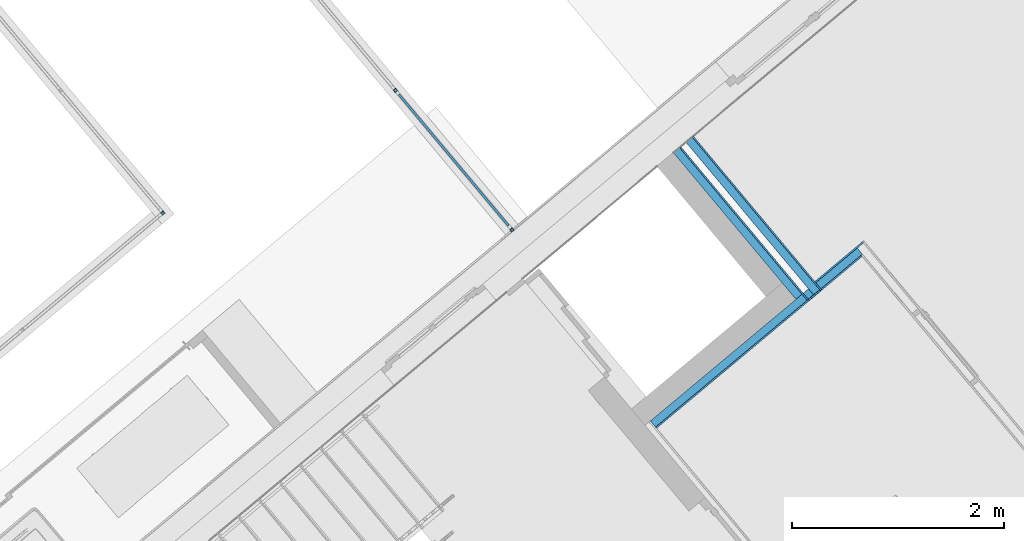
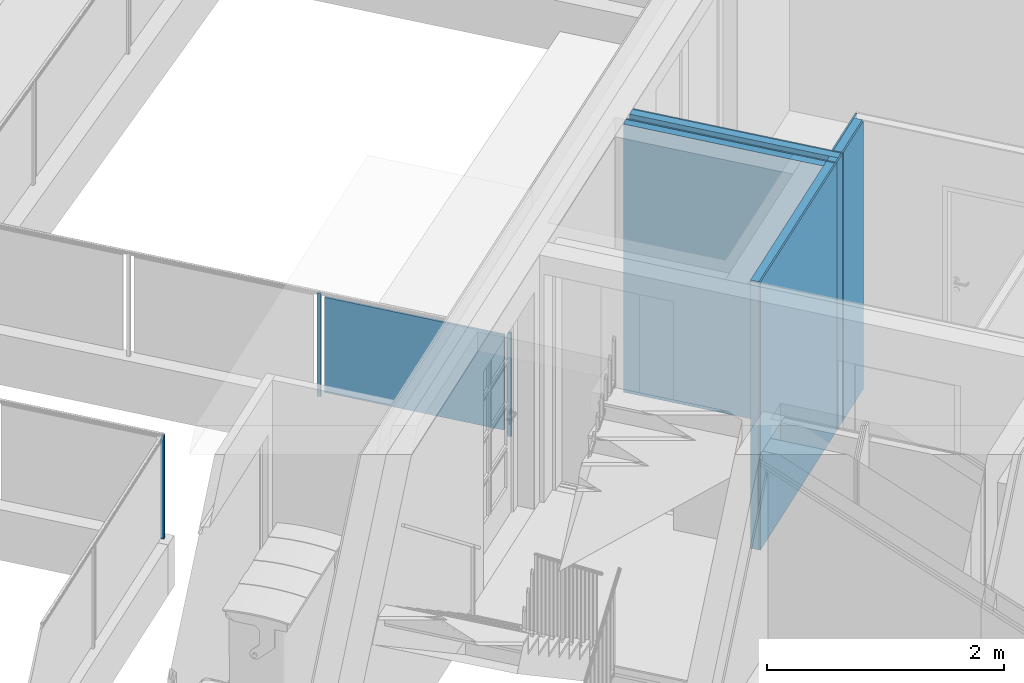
# One storey, part 40 of 75: 15 building element parts, 7 elements without a shape of their own.
"""IFC4 building model written with IfcOpenShell, lengths in metres."""

import ifcopenshell
import ifcopenshell.guid

model = None  # the IFC model being written
_history = None  # IfcOwnerHistory: only IFC2X3 demands one
_inside = {}  # id of a spatial element -> (the spatial element, [elements in it])
_under = {}  # id of a project, library or spatial element -> (it, [spatial elements below it])
_declared = {}  # id of a project -> (the project, [libraries it declares])
_typed = {}  # id of a type object -> (the type object, [elements of that type])
_made_of = {}  # id of a material, layer set ... -> (it, [elements and type objects made of it])


def new_model(schema):
    """Start an empty IFC model of exactly this schema.

    Asked for "IFC4X3", IfcOpenShell would pick the latest addendum, in which some entities
    have other attributes; the version numbers below select the first issue.
    IFC2X3 requires an IfcOwnerHistory on every rooted entity: one is made here for all.
    """
    global model, _history
    if schema == "IFC4X3":
        model = ifcopenshell.file(schema_version=(4, 3, 0, 0))
    else:
        model = ifcopenshell.file(schema=schema)
    _inside.clear()
    _under.clear()
    _declared.clear()
    _typed.clear()
    _made_of.clear()
    _history = None
    if model.schema == "IFC2X3":
        org = make("IfcOrganization", Name="unknown")
        user = make(
            "IfcPersonAndOrganization",
            ThePerson=make("IfcPerson", FamilyName="unknown"),
            TheOrganization=org,
        )
        app = make(
            "IfcApplication",
            ApplicationDeveloper=org,
            Version="unknown",
            ApplicationFullName="unknown",
            ApplicationIdentifier="unknown",
        )
        _history = make(
            "IfcOwnerHistory",
            OwningUser=user,
            OwningApplication=app,
            ChangeAction="ADDED",
            CreationDate=0,
        )
    return model


def make(cls, **values):
    """One entity of the class cls with the attributes given. An attribute that is None is left unset."""
    return model.create_entity(
        cls, **{name: value for name, value in values.items() if value is not None}
    )


def entity(cls, *values):
    """Any entity or typed value of the class cls, its attributes in the order of the schema. None: left unset."""
    e = model.create_entity(cls)
    for i, value in enumerate(values):
        if value is not None:
            e[i] = value
    return e


def rooted(cls, **values):
    """An entity with a GlobalId (a new one), such as an element, a storey or a relation."""
    return make(cls, GlobalId=ifcopenshell.guid.new(), OwnerHistory=_history, **values)


def si_unit(unit_type, name, prefix=None):
    """IfcSIUnit, for example si_unit("LENGTHUNIT", "METRE", prefix="MILLI")."""
    return make("IfcSIUnit", UnitType=unit_type, Prefix=prefix, Name=name)


def converted_unit(unit_type, name, factor, base, dimensions=None, offset=None):
    """IfcConversionBasedUnit, such as the inch: factor (a typed value) times the base unit."""
    return make(
        "IfcConversionBasedUnit"
        if offset is None
        else "IfcConversionBasedUnitWithOffset",
        ConversionOffset=offset,
        Dimensions=None
        if dimensions is None
        else entity("IfcDimensionalExponents", *dimensions),
        UnitType=unit_type,
        Name=name,
        ConversionFactor=make(
            "IfcMeasureWithUnit", ValueComponent=factor, UnitComponent=base
        ),
    )


def derived_unit(unit_type, elements):
    """IfcDerivedUnit: a product of units, each with its exponent."""
    return make(
        "IfcDerivedUnit",
        Elements=[
            make("IfcDerivedUnitElement", Unit=unit, Exponent=power)
            for unit, power in elements
        ],
        UnitType=unit_type,
    )


def assignment(units):
    """IfcUnitAssignment: the units of a project."""
    return None if units is None else make("IfcUnitAssignment", Units=units)


def point(xyz):
    """IfcCartesianPoint."""
    return None if xyz is None else make("IfcCartesianPoint", Coordinates=xyz)


def direction(xyz):
    """IfcDirection."""
    return None if xyz is None else make("IfcDirection", DirectionRatios=xyz)


def frame(location, z_axis=None, x_axis=None):
    """IfcAxis2Placement3D, a coordinate frame: its origin and axes. An axis left out is left unset."""
    return make(
        "IfcAxis2Placement3D",
        Location=point(location),
        Axis=direction(z_axis),
        RefDirection=direction(x_axis),
    )


def origin_with_axes():
    """The frame at (0, 0, 0) with the z axis (0, 0, 1) and the x axis (1, 0, 0) written out."""
    return frame((0.0, 0.0, 0.0), z_axis=(0.0, 0.0, 1.0), x_axis=(1.0, 0.0, 0.0))


def place(relative_to, where):
    """IfcLocalPlacement: puts the frame where relative to a parent placement (None: the world)."""
    return make(
        "IfcLocalPlacement", PlacementRelTo=relative_to, RelativePlacement=where
    )


def context(
    kind, dimensions, precision=None, world=None, true_north=None, identifier=None
):
    """IfcGeometricRepresentationContext, for example the 3D "Model" context."""
    return make(
        "IfcGeometricRepresentationContext",
        ContextIdentifier=identifier,
        ContextType=kind,
        CoordinateSpaceDimension=dimensions,
        Precision=precision,
        WorldCoordinateSystem=world,
        TrueNorth=true_north,
    )


def subcontext(parent, identifier, kind, view, scale=None):
    """IfcGeometricRepresentationSubContext, for example "Body" below "Model"."""
    return make(
        "IfcGeometricRepresentationSubContext",
        ContextIdentifier=identifier,
        ContextType=kind,
        ParentContext=parent,
        TargetScale=scale,
        TargetView=view,
    )


def project(units=None, contexts=None):
    """IfcProject with its units and contexts."""
    return rooted(
        "IfcProject",
        Name="project",
        RepresentationContexts=contexts,
        UnitsInContext=assignment(units),
    )


def spatial(cls, under=None, at=None, **own):
    """A site, building, storey or space (cls), placed at a placement, below another one or the project."""
    s = rooted(cls, ObjectPlacement=at, **own)
    if under is not None:
        _under.setdefault(under.id(), (under, []))[1].append(s)
    return s


def point_list(points):
    """IfcCartesianPointList2D or 3D."""
    cls = (
        "IfcCartesianPointList2D" if len(points[0]) == 2 else "IfcCartesianPointList3D"
    )
    return make(cls, CoordList=points)


def polygons(points, faces, closed=None, point_numbers=None):
    """IfcPolygonalFaceSet: a face is its outer loop, then its inner loops; points numbered from 1."""
    made = []
    for loops in faces:
        if len(loops) == 1:
            made.append(make("IfcIndexedPolygonalFace", CoordIndex=loops[0]))
        else:
            made.append(
                make(
                    "IfcIndexedPolygonalFaceWithVoids",
                    CoordIndex=loops[0],
                    InnerCoordIndices=loops[1:],
                )
            )
    return make(
        "IfcPolygonalFaceSet",
        Coordinates=point_list(points),
        Closed=closed,
        Faces=made,
        PnIndex=point_numbers,
    )


def shape(context_of_items, identifier, shape_type, items):
    """IfcShapeRepresentation: the items that make up one representation, for example the "Body"."""
    return make(
        "IfcShapeRepresentation",
        ContextOfItems=context_of_items,
        RepresentationIdentifier=identifier,
        RepresentationType=shape_type,
        Items=items,
    )


def material(Name=None, Category=None):
    """IfcMaterial."""
    return make("IfcMaterial", Name=Name, Category=Category)


def made_of(thing, what):
    """Note that an element or type object is made of a material, layer set ...; save() writes the relation."""
    if what is not None:
        _made_of.setdefault(what.id(), (what, []))[1].append(thing)
    return thing


def type_object(cls, material=None, **own):
    """A type object (cls), such as IfcWallType, which elements share."""
    return made_of(rooted(cls, **own), material)


def element(
    cls,
    number,
    at=None,
    inside=None,
    cuts=None,
    type_object=None,
    material=None,
    context=None,
    identifier="Body",
    shape_type=None,
    held_by="IfcProductDefinitionShape",
    body=None,
    shapes=None,
    **own,
):
    """One element of the class cls, such as IfcWall. Its Tag is "e" and its number.

    at: its placement. inside: the storey or other place that contains it. cuts: it is an
    opening in that element (IfcRelVoidsElement). A single representation is given by context,
    identifier, shape_type and body (its items); several are given by shapes. held_by: the class
    of the entity that holds the representations. save() writes the other relations.
    """
    e = rooted(cls, Tag="e%d" % number, ObjectPlacement=at, **own)
    if body is not None:
        shapes = [shape(context, identifier, shape_type, body)]
    if shapes is not None:
        e.Representation = make(held_by, Representations=shapes)
    if inside is not None:
        _inside.setdefault(inside.id(), (inside, []))[1].append(e)
    if cuts is not None:
        rooted(
            "IfcRelVoidsElement", RelatingBuildingElement=cuts, RelatedOpeningElement=e
        )
    if type_object is not None:
        _typed.setdefault(type_object.id(), (type_object, []))[1].append(e)
    return made_of(e, material)


def aggregate(whole, parts):
    """IfcRelAggregates: a whole, such as a stair, and the parts it consists of."""
    return rooted("IfcRelAggregates", RelatingObject=whole, RelatedObjects=parts)


def save(model, path):
    """Write the relations noted so far, then the file.

    IfcRelAggregates (storeys below a building ...), IfcRelContainedInSpatialStructure (elements
    in a storey), IfcRelDefinesByType, IfcRelAssociatesMaterial and IfcRelDeclares: one each for
    every whole, place, type object, material and project.
    """
    for whole, parts in _under.values():
        aggregate(whole, parts)
    for where, things in _inside.values():
        rooted(
            "IfcRelContainedInSpatialStructure",
            RelatedElements=things,
            RelatingStructure=where,
        )
    for kind, things in _typed.values():
        rooted("IfcRelDefinesByType", RelatedObjects=things, RelatingType=kind)
    for what, things in _made_of.values():
        rooted("IfcRelAssociatesMaterial", RelatedObjects=things, RelatingMaterial=what)
    for by, libraries in _declared.values():
        rooted("IfcRelDeclares", RelatingContext=by, RelatedDefinitions=libraries)
    model.write(path)


model = new_model("IFC4")

# Units and contexts
model_context = context("Model", 3, precision=1e-05, world=origin_with_axes(), true_north=direction((0.0, 1.0)))
body_context = subcontext(model_context, "Body", "Model", "MODEL_VIEW")
ifc_project = project(units=[si_unit("LENGTHUNIT", "METRE"), si_unit("AREAUNIT", "SQUARE_METRE"), si_unit("VOLUMEUNIT", "CUBIC_METRE"), converted_unit("PLANEANGLEUNIT", "DEGREE", entity("IfcPlaneAngleMeasure", 0.0174532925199), si_unit("PLANEANGLEUNIT", "RADIAN"), dimensions=[0, 0, 0, 0, 0, 0, 0]), converted_unit("TIMEUNIT", "Year", entity("IfcTimeMeasure", 31556926.0), si_unit("TIMEUNIT", "SECOND"), dimensions=[0, 0, 1, 0, 0, 0, 0]), si_unit("MASSUNIT", "GRAM", prefix="KILO"), si_unit("THERMODYNAMICTEMPERATUREUNIT", "DEGREE_CELSIUS"), si_unit("LUMINOUSINTENSITYUNIT", "LUMEN"), si_unit("ENERGYUNIT", "JOULE", prefix="MEGA"), derived_unit("THERMALCONDUCTANCEUNIT", [(si_unit("POWERUNIT", "WATT"), 1), (si_unit("LENGTHUNIT", "METRE"), -1), (si_unit("THERMODYNAMICTEMPERATUREUNIT", "KELVIN"), -1)]), derived_unit("SPECIFICHEATCAPACITYUNIT", [(si_unit("ENERGYUNIT", "JOULE"), 1), (si_unit("MASSUNIT", "GRAM", prefix="KILO"), -1), (si_unit("THERMODYNAMICTEMPERATUREUNIT", "KELVIN"), -1)]), derived_unit("MASSDENSITYUNIT", [(si_unit("MASSUNIT", "GRAM", prefix="KILO"), 1), (si_unit("VOLUMEUNIT", "CUBIC_METRE"), -1)])], contexts=[model_context])

# Site, building, storey
site_placement = place(None, frame((-0.00153261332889, -0.00661245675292, 0.0), z_axis=(0.0, 0.0, 1.0), x_axis=(1.0, 0.0, 0.0)))
site = spatial("IfcSite", under=ifc_project, at=site_placement, Name="Gelände", CompositionType="ELEMENT")
building_placement = place(site_placement, origin_with_axes())
building = spatial("IfcBuilding", under=site, at=building_placement, Name="Gebäude", CompositionType="ELEMENT")
storey_placement = place(building_placement, frame((0.0, 0.0, -0.22), z_axis=(0.0, 0.0, 1.0), x_axis=(1.0, 0.0, 0.0)))
storey = spatial("IfcBuildingStorey", under=building, at=storey_placement, Name="EG", CompositionType="ELEMENT", Elevation=-0.22)

# Wall, building element parts
wall_type_1 = type_object("IfcWallType", Name="LB 9,0 cm einfache Vorsatzschale  90", PredefinedType="NOTDEFINED")
wall_1_placement = place(storey_placement, frame((2.91105147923, 25.8183705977, 0.0), z_axis=(0.0, 0.0, 1.0), x_axis=(-0.641215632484, 0.767360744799, 0.0)))
wall_1 = element("IfcWall", 1, at=wall_1_placement, inside=storey, type_object=wall_type_1, Name="Wand-006", PredefinedType="NOTDEFINED")
ifc_material_1 = material(Name="Mineralwolle weich")
building_element_part_1_placement = place(wall_1_placement, origin_with_axes())
building_element_part_1 = element("IfcBuildingElementPart", 2, at=building_element_part_1_placement, material=ifc_material_1, Name="Mineralwolle weich", PredefinedType="NOTDEFINED", context=body_context, shape_type="Tessellation", body=[
    polygons([(1.79614364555, -0.075, 2.76), (6.98080551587e-07, -0.075, 2.76), (6.98080551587e-07, -0.075, 0.0), (1.79614364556, -0.075, 0.0), (0.0, 0.0, 2.76), (1.79614424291, 0.0, 2.76), (0.0, 0.0, 0.0), (1.79614424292, 0.0, 0.0)], [[[1, 2, 3, 4]], [[5, 2, 1, 6]], [[2, 5, 7, 3]], [[7, 8, 4, 3]], [[6, 1, 4, 8]], [[5, 6, 8, 7]]], closed=True),
])
ifc_material_2 = material(Name="Gipskarton")
building_element_part_2_placement = place(wall_1_placement, origin_with_axes())
building_element_part_2 = element("IfcBuildingElementPart", 3, at=building_element_part_2_placement, material=ifc_material_2, Name="Gipskarton", PredefinedType="NOTDEFINED", context=body_context, shape_type="Tessellation", body=[
    polygons([(1.79614352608, -0.09, 2.76), (-0.0749991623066, -0.09, 2.76), (-0.0749991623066, -0.09, 0.0), (1.79614352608, -0.09, 0.0), (-0.0749993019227, -0.075, 2.76), (1.79614364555, -0.075, 2.76), (-0.0749993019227, -0.075, 0.0), (1.79614364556, -0.075, 0.0)], [[[1, 2, 3, 4]], [[5, 2, 1, 6]], [[2, 5, 7, 3]], [[7, 8, 4, 3]], [[6, 1, 4, 8]], [[5, 6, 8, 7]]], closed=True),
])
aggregate(wall_1, [building_element_part_1, building_element_part_2])

wall_2_placement = place(storey_placement, frame((1.49097783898, 24.6317179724, 0.0), z_axis=(0.0, 0.0, 1.0), x_axis=(0.767354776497, 0.641222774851, 0.0)))
wall_2 = element("IfcWall", 4, at=wall_2_placement, inside=storey, type_object=wall_type_1, Name="Wand-006", PredefinedType="NOTDEFINED")
building_element_part_3_placement = place(wall_2_placement, origin_with_axes())
building_element_part_3 = element("IfcBuildingElementPart", 5, at=building_element_part_3_placement, material=ifc_material_1, Name="Mineralwolle weich", PredefinedType="NOTDEFINED", context=body_context, shape_type="Tessellation", body=[
    polygons([(1.92560898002, 0.0, 2.76), (1.92560828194, -0.075, 2.76), (1.92560828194, -0.075, 0.0), (1.92560898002, 0.0, 0.0), (0.0649631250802, -0.075, 2.76), (0.0650000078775, 0.0, 2.76), (0.064963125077, -0.075, 0.0), (0.065000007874, 0.0, 0.0)], [[[1, 2, 3, 4]], [[5, 2, 1, 6]], [[2, 5, 7, 3]], [[8, 4, 3, 7]], [[6, 1, 4, 8]], [[5, 6, 8, 7]]], closed=True),
])
building_element_part_4_placement = place(wall_2_placement, origin_with_axes())
building_element_part_4 = element("IfcBuildingElementPart", 6, at=building_element_part_4_placement, material=ifc_material_2, Name="Gipskarton", PredefinedType="NOTDEFINED", context=body_context, shape_type="Tessellation", body=[
    polygons([(1.94060828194, -0.075, 2.76), (1.94060814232, -0.09, 2.76), (1.94060814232, -0.09, 0.0), (1.94060828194, -0.075, 0.0), (0.0649557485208, -0.09, 2.76), (0.0649631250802, -0.075, 2.76), (0.0649557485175, -0.09, 0.0), (0.064963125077, -0.075, 0.0)], [[[1, 2, 3, 4]], [[5, 2, 1, 6]], [[2, 5, 7, 3]], [[3, 7, 8, 4]], [[6, 1, 4, 8]], [[5, 6, 8, 7]]], closed=True),
])
aggregate(wall_2, [building_element_part_3, building_element_part_4])

wall_3_placement = place(storey_placement, frame((2.98011276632, 25.8760801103, 0.0), z_axis=(0.0, 0.0, 1.0), x_axis=(0.767354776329, 0.641222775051, 0.0)))
wall_3 = element("IfcWall", 7, at=wall_3_placement, inside=storey, type_object=wall_type_1, Name="Wand-006", PredefinedType="NOTDEFINED")
building_element_part_5_placement = place(wall_3_placement, origin_with_axes())
building_element_part_5 = element("IfcBuildingElementPart", 8, at=building_element_part_5_placement, material=ifc_material_1, Name="Mineralwolle weich", PredefinedType="NOTDEFINED", context=body_context, shape_type="Tessellation", body=[
    polygons([(0.0647565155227, 0.0, 2.76), (0.0647552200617, -0.075, 2.76), (0.0647552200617, -0.075, 0.0), (0.0647565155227, 0.0, 0.0), (0.0, -0.075, 2.76), (0.0, 0.0, 2.76), (0.0, -0.075, 0.0), (0.0, 0.0, 0.0)], [[[1, 2, 3, 4]], [[5, 2, 1, 6]], [[2, 5, 7, 3]], [[4, 3, 7, 8]], [[6, 1, 4, 8]], [[5, 6, 8, 7]]], closed=True),
])
building_element_part_6_placement = place(wall_3_placement, origin_with_axes())
building_element_part_6 = element("IfcBuildingElementPart", 9, at=building_element_part_6_placement, material=ifc_material_2, Name="Gipskarton", PredefinedType="NOTDEFINED", context=body_context, shape_type="Tessellation", body=[
    polygons([(0.139755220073, -0.075, 2.76), (0.139754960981, -0.09, 2.76), (0.139754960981, -0.09, 0.0), (0.139755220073, -0.075, 0.0), (0.0, -0.09, 2.76), (0.0, -0.075, 2.76), (0.0, -0.09, 0.0), (0.0, -0.075, 0.0)], [[[1, 2, 3, 4]], [[5, 2, 1, 6]], [[2, 5, 7, 3]], [[4, 3, 7, 8]], [[6, 1, 4, 8]], [[5, 6, 8, 7]]], closed=True),
])
aggregate(wall_3, [building_element_part_5, building_element_part_6])

wall_4_placement = place(storey_placement, frame((3.08751284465, 25.8485405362, 0.0), z_axis=(0.0, 0.0, 1.0), x_axis=(-0.64120952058, 0.767365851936, 0.0)))
wall_4 = element("IfcWall", 10, at=wall_4_placement, inside=storey, type_object=wall_type_1, Name="Wand-006", PredefinedType="NOTDEFINED")
building_element_part_7_placement = place(wall_4_placement, origin_with_axes())
building_element_part_7 = element("IfcBuildingElementPart", 11, at=building_element_part_7_placement, material=ifc_material_1, Name="Mineralwolle weich", PredefinedType="NOTDEFINED", context=body_context, shape_type="Tessellation", body=[
    polygons([(1.8861415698, -0.075, 2.76), (0.0150012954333, -0.075, 2.76), (0.0150012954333, -0.075, 0.0), (1.88614156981, -0.075, 0.0), (0.0149999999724, 0.0, 2.76), (1.8861415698, 0.0, 2.76), (0.0149999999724, 0.0, 0.0), (1.88614156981, 0.0, 0.0)], [[[1, 2, 3, 4]], [[5, 2, 1, 6]], [[2, 5, 7, 3]], [[7, 8, 4, 3]], [[6, 1, 4, 8]], [[5, 6, 8, 7]]], closed=True),
])
building_element_part_8_placement = place(wall_4_placement, origin_with_axes())
building_element_part_8 = element("IfcBuildingElementPart", 12, at=building_element_part_8_placement, material=ifc_material_2, Name="Gipskarton", PredefinedType="NOTDEFINED", context=body_context, shape_type="Tessellation", body=[
    polygons([(1.8861415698, -0.09, 2.76), (0.0, -0.09, 2.76), (0.0, -0.09, 0.0), (1.88614156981, -0.09, 0.0), (0.0, -0.075, 2.76), (1.8861415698, -0.075, 2.76), (0.0, -0.075, 0.0), (1.88614156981, -0.075, 0.0)], [[[1, 2, 3, 4]], [[5, 2, 1, 6]], [[2, 5, 7, 3]], [[7, 8, 4, 3]], [[6, 1, 4, 8]], [[5, 6, 8, 7]]], closed=True),
])
aggregate(wall_4, [building_element_part_7, building_element_part_8])

wall_type_2 = type_object("IfcWallType", Name="IW LB 01 Leichtbautrennwand einfach 10,5 cm 105", PredefinedType="NOTDEFINED")
wall_5_placement = place(storey_placement, frame((3.02017821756, 25.9291230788, 0.0), z_axis=(0.0, 0.0, 1.0), x_axis=(0.767365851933, 0.641209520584, 0.0)))
wall_5 = element("IfcWall", 13, at=wall_5_placement, inside=storey, type_object=wall_type_2, Name="Wand-012", PredefinedType="NOTDEFINED")
building_element_part_9_placement = place(wall_5_placement, origin_with_axes())
building_element_part_9 = element("IfcBuildingElementPart", 14, at=building_element_part_9_placement, material=ifc_material_2, Name="Gipskarton", PredefinedType="NOTDEFINED", context=body_context, shape_type="Tessellation", body=[
    polygons([(0.673687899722, 0.0, 2.76), (0.673687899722, -0.015, 2.76), (0.673687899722, -0.015, 0.0), (0.673687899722, 0.0, 0.0), (0.0900000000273, -0.015, 2.76), (0.0900000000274, 0.0, 2.76), (0.0900000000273, -0.015, 0.0), (0.0900000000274, 0.0, 0.0)], [[[1, 2, 3, 4]], [[5, 2, 1, 6]], [[2, 5, 7, 3]], [[4, 3, 7, 8]], [[6, 1, 4, 8]], [[5, 6, 8, 7]]], closed=True),
])
building_element_part_10_placement = place(wall_5_placement, origin_with_axes())
building_element_part_10 = element("IfcBuildingElementPart", 15, at=building_element_part_10_placement, material=ifc_material_1, Name="Mineralwolle weich", PredefinedType="NOTDEFINED", context=body_context, shape_type="Tessellation", body=[
    polygons([(0.598687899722, -0.015, 2.76), (0.598687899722, -0.09, 2.76), (0.598687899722, -0.09, 0.0), (0.598687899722, -0.015, 0.0), (0.090000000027, -0.09, 2.76), (0.0900000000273, -0.015, 2.76), (0.090000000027, -0.09, 0.0), (0.0900000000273, -0.015, 0.0)], [[[1, 2, 3, 4]], [[5, 2, 1, 6]], [[2, 5, 7, 3]], [[4, 3, 7, 8]], [[6, 1, 4, 8]], [[5, 6, 8, 7]]], closed=True),
])
building_element_part_11_placement = place(wall_5_placement, origin_with_axes())
building_element_part_11 = element("IfcBuildingElementPart", 16, at=building_element_part_11_placement, material=ifc_material_2, Name="Gipskarton", PredefinedType="NOTDEFINED", context=body_context, shape_type="Tessellation", body=[
    polygons([(0.583687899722, -0.09, 2.76), (0.583687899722, -0.105, 2.76), (0.583687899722, -0.105, 0.0), (0.583687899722, -0.09, 0.0), (0.0900000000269, -0.105, 2.76), (0.090000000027, -0.09, 2.76), (0.0900000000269, -0.105, 0.0), (0.090000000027, -0.09, 0.0)], [[[1, 2, 3, 4]], [[5, 2, 1, 6]], [[2, 5, 7, 3]], [[4, 3, 7, 8]], [[6, 1, 4, 8]], [[5, 6, 8, 7]]], closed=True),
])
aggregate(wall_5, [building_element_part_9, building_element_part_10, building_element_part_11])

# Railing, building element part
railing_type = type_object("IfcRailingType", Name="Geländerart", PredefinedType="NOTDEFINED")
railing_1_placement = place(storey_placement, frame((-6.36726458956, 22.4448248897, 0.523948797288), z_axis=(0.0, 0.0, 1.0), x_axis=(1.0, 0.0, 0.0)))
railing_1 = element("IfcRailing", 17, at=railing_1_placement, inside=storey, type_object=railing_type, Name="Geländer - 001", PredefinedType="NOTDEFINED")
ifc_material_3 = material(Name="Aluminium")
building_element_part_12_placement = place(railing_1_placement, origin_with_axes())
building_element_part_12 = element("IfcBuildingElementPart", 18, at=building_element_part_12_placement, material=ifc_material_3, Name="Aluminium", PredefinedType="NOTDEFINED", context=body_context, shape_type="Tessellation", body=[
    polygons([(3.3393933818, 4.18604234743, 0.0), (3.32016217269, 4.20906756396, 0.0), (3.32016217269, 4.20906756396, 1.06), (3.3393933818, 4.18604234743, 1.06), (3.31636816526, 4.16681113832, 0.0), (3.29713695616, 4.18983635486, 0.0), (3.33235064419, 4.186674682, 0.0), (3.31952983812, 4.20202482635, 0.0), (3.30417969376, 4.18920402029, 0.0), (3.31700049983, 4.17385387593, 0.0), (3.29713695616, 4.18983635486, 1.06), (3.31636816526, 4.16681113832, 1.06), (3.33235064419, 4.186674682, 1.06), (3.31700049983, 4.17385387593, 1.06), (3.30417969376, 4.18920402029, 1.06), (3.31952983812, 4.20202482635, 1.06)], [[[1, 2, 3, 4]], [[1, 5, 6, 2], [7, 8, 9, 10]], [[2, 6, 11, 3]], [[4, 3, 11, 12], [13, 14, 15, 16]], [[5, 1, 4, 12]], [[6, 5, 12, 11]], [[8, 7, 13, 16]], [[9, 8, 16, 15]], [[10, 9, 15, 14]], [[7, 10, 14, 13]]], closed=True),
])
aggregate(railing_1, [building_element_part_12])

# Railing, building element parts
railing_2_placement = place(storey_placement, frame((0.180685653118, 26.4249004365, 0.523948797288), z_axis=(0.0, 0.0, 1.0), x_axis=(1.0, 0.0, 0.0)))
railing_2 = element("IfcRailing", 19, at=railing_2_placement, inside=storey, type_object=railing_type, Name="Geländer - 001", PredefinedType="NOTDEFINED")
building_element_part_13_placement = place(railing_2_placement, origin_with_axes())
building_element_part_13 = element("IfcBuildingElementPart", 20, at=building_element_part_13_placement, material=ifc_material_3, Name="Aluminium", PredefinedType="NOTDEFINED", context=body_context, shape_type="Tessellation", body=[
    polygons([(0.0594552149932, 0.069210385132, 0.0), (0.0364313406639, 0.0499775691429, 0.0), (0.0364313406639, 0.0499775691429, 1.06), (0.0594552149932, 0.069210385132, 1.06), (0.0786880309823, 0.0461865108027, 0.0), (0.055664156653, 0.0269536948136, 0.0), (0.0588233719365, 0.0621676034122, 0.0), (0.0434741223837, 0.0493457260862, 0.0), (0.0562959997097, 0.0339964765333, 0.0), (0.0716452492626, 0.0468183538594, 0.0), (0.055664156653, 0.0269536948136, 1.06), (0.0786880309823, 0.0461865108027, 1.06), (0.0588233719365, 0.0621676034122, 1.06), (0.0716452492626, 0.0468183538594, 1.06), (0.0562959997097, 0.0339964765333, 1.06), (0.0434741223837, 0.0493457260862, 1.06)], [[[1, 2, 3, 4]], [[1, 5, 6, 2], [7, 8, 9, 10]], [[2, 6, 11, 3]], [[4, 3, 11, 12], [13, 14, 15, 16]], [[5, 1, 4, 12]], [[6, 5, 12, 11]], [[8, 7, 13, 16]], [[9, 8, 16, 15]], [[10, 9, 15, 14]], [[7, 10, 14, 13]]], closed=True),
])
ifc_material_4 = material(Name="Zaun")
building_element_part_14_placement = place(railing_2_placement, origin_with_axes())
building_element_part_14 = element("IfcBuildingElementPart", 21, at=building_element_part_14_placement, material=ifc_material_4, Name="Zaun", PredefinedType="NOTDEFINED", context=body_context, shape_type="Tessellation", body=[
    polygons([(-1.01535492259, 1.3168848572, 0.05), (0.0178303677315, 0.0800442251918, 0.05), (0.0178303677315, 0.0800442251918, 1.03), (-1.01535492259, 1.3168848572, 1.03), (0.0331796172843, 0.0928661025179, 0.05), (-1.00000567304, 1.32970673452, 0.05), (0.0331796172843, 0.0928661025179, 1.03), (-1.00000567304, 1.32970673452, 1.03)], [[[1, 2, 3, 4]], [[5, 2, 1, 6]], [[7, 3, 2, 5]], [[4, 3, 7, 8]], [[1, 4, 8, 6]], [[7, 5, 6, 8]]], closed=True),
])
building_element_part_15_placement = place(railing_2_placement, origin_with_axes())
building_element_part_15 = element("IfcBuildingElementPart", 22, at=building_element_part_15_placement, material=ifc_material_3, Name="Aluminium", PredefinedType="NOTDEFINED", context=body_context, shape_type="Tessellation", body=[
    polygons([(-1.03783946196, 1.3827972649, 0.0), (-1.06086333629, 1.36356444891, 0.0), (-1.06086333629, 1.36356444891, 1.06), (-1.03783946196, 1.3827972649, 1.06), (-1.01860664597, 1.35977339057, 0.0), (-1.0416305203, 1.34054057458, 0.0), (-1.03847130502, 1.37575448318, 0.0), (-1.05382055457, 1.36293260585, 0.0), (-1.04099867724, 1.3475833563, 0.0), (-1.02564942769, 1.36040523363, 0.0), (-1.0416305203, 1.34054057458, 1.06), (-1.01860664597, 1.35977339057, 1.06), (-1.03847130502, 1.37575448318, 1.06), (-1.02564942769, 1.36040523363, 1.06), (-1.04099867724, 1.3475833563, 1.06), (-1.05382055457, 1.36293260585, 1.06)], [[[1, 2, 3, 4]], [[1, 5, 6, 2], [7, 8, 9, 10]], [[2, 6, 11, 3]], [[4, 3, 11, 12], [13, 14, 15, 16]], [[5, 1, 4, 12]], [[6, 5, 12, 11]], [[8, 7, 13, 16]], [[9, 8, 16, 15]], [[10, 9, 15, 14]], [[7, 10, 14, 13]]], closed=True),
])
aggregate(railing_2, [building_element_part_13, building_element_part_14, building_element_part_15])

save(model, "model.ifc")
